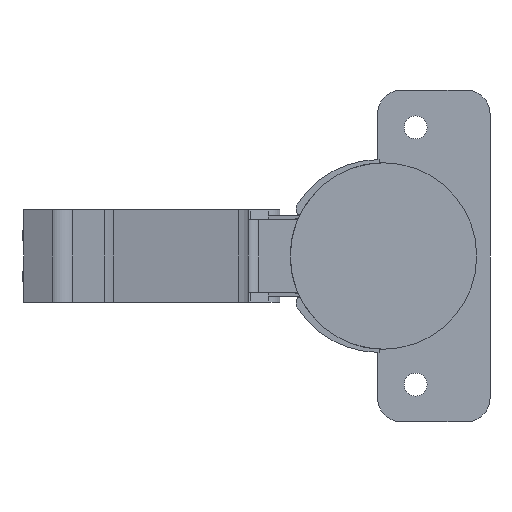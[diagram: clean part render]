
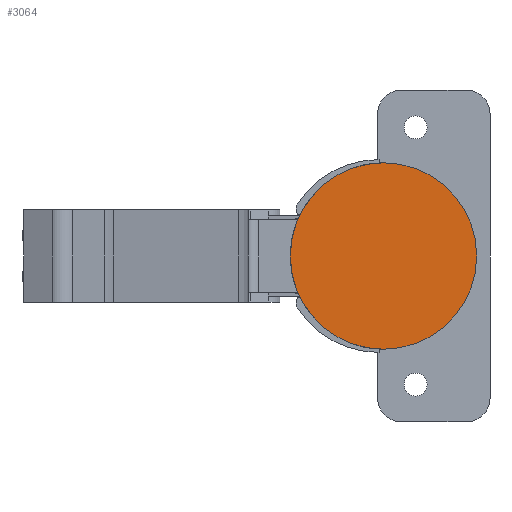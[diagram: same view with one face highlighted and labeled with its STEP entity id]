
A CAD part, front view. The second image highlights one B-rep face of the part: STEP entity #3064.
In plain terms, the highlighted planar face has unit normal (0, -1, 0).
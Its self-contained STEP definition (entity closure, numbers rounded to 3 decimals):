
#84 = AXIS2_PLACEMENT_3D ( 'NONE', #3070, #3104, #779 ) ;
#108 = DIRECTION ( 'NONE',  ( 0., 0., -1. ) ) ;
#187 = CARTESIAN_POINT ( 'NONE',  ( 0., -11.4, -17.4 ) ) ;
#396 = EDGE_CURVE ( 'NONE', #2423, #2218, #3245, .T. ) ;
#507 = FACE_OUTER_BOUND ( 'NONE', #2094, .T. ) ;
#779 = DIRECTION ( 'NONE',  ( 0., 0., 1. ) ) ;
#824 = DIRECTION ( 'NONE',  ( 0., -1., 0. ) ) ;
#840 = AXIS2_PLACEMENT_3D ( 'NONE', #1798, #2087, #2840 ) ;
#1581 = AXIS2_PLACEMENT_3D ( 'NONE', #1841, #824, #108 ) ;
#1691 = ORIENTED_EDGE ( 'NONE', *, *, #396, .T. ) ;
#1798 = CARTESIAN_POINT ( 'NONE',  ( 0., -11.4, 0. ) ) ;
#1841 = CARTESIAN_POINT ( 'NONE',  ( 0., -11.4, 0. ) ) ;
#1868 = CARTESIAN_POINT ( 'NONE',  ( 0., -11.4, 17.4 ) ) ;
#1909 = CIRCLE ( 'NONE', #1581, 17.4 ) ;
#2087 = DIRECTION ( 'NONE',  ( 0., -1., 0. ) ) ;
#2094 = EDGE_LOOP ( 'NONE', ( #1691, #3309 ) ) ;
#2218 = VERTEX_POINT ( 'NONE', #187 ) ;
#2423 = VERTEX_POINT ( 'NONE', #1868 ) ;
#2840 = DIRECTION ( 'NONE',  ( 0., 0., -1. ) ) ;
#3056 = PLANE ( 'NONE',  #84 ) ;
#3064 = ADVANCED_FACE ( 'NONE', ( #507 ), #3056, .F. ) ;
#3070 = CARTESIAN_POINT ( 'NONE',  ( 10.967, -11.4, -7.7 ) ) ;
#3104 = DIRECTION ( 'NONE',  ( 0., 1., 0. ) ) ;
#3199 = EDGE_CURVE ( 'NONE', #2218, #2423, #1909, .T. ) ;
#3245 = CIRCLE ( 'NONE', #840, 17.4 ) ;
#3309 = ORIENTED_EDGE ( 'NONE', *, *, #3199, .T. ) ;
